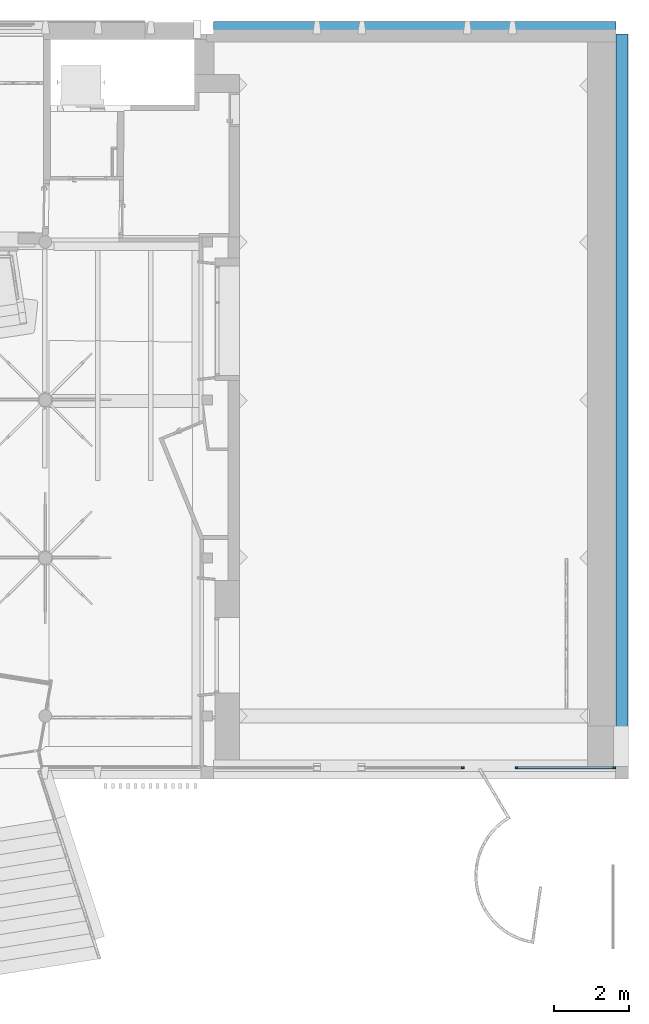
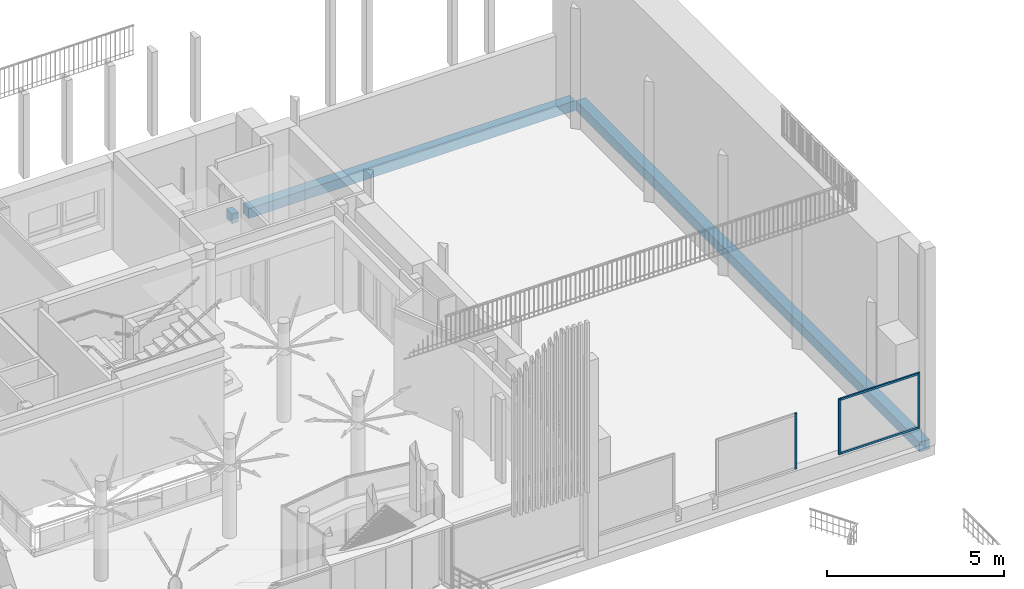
# One storey, part 10 of 65: 5 members, 2 beams, 2 elements without a shape of their own.
"""IFC4 building model written with IfcOpenShell, lengths in metres."""

from ifc_helpers import new_model, entity, si_unit, converted_unit, derived_unit, direction, frame, origin, place, context, subcontext, project, spatial, indexed_curve, outline, extrude, source, transform, mapped, material, type_object, type_shapes, element, aggregate, save


model = new_model("IFC4")

# Units and contexts
model_context = context("Model", 3, precision=1e-05, world=origin(), true_north=direction((6.12303176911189e-17, 1.0)))
body_context = subcontext(model_context, "Body", "Model", "MODEL_VIEW")
ifc_project = project(units=[si_unit("LENGTHUNIT", "METRE"), si_unit("AREAUNIT", "SQUARE_METRE"), si_unit("VOLUMEUNIT", "CUBIC_METRE"), converted_unit("PLANEANGLEUNIT", "DEGREE", entity("IfcRatioMeasure", 0.0174532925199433), si_unit("PLANEANGLEUNIT", "RADIAN"), dimensions=[0, 0, 0, 0, 0, 0, 0]), si_unit("MASSUNIT", "GRAM", prefix="KILO"), derived_unit("MASSDENSITYUNIT", [(si_unit("MASSUNIT", "GRAM", prefix="KILO"), 1), (si_unit("LENGTHUNIT", "METRE"), -3)]), derived_unit("MOMENTOFINERTIAUNIT", [(si_unit("LENGTHUNIT", "METRE"), 4)]), si_unit("TIMEUNIT", "SECOND"), si_unit("FREQUENCYUNIT", "HERTZ"), si_unit("THERMODYNAMICTEMPERATUREUNIT", "DEGREE_CELSIUS"), derived_unit("THERMALTRANSMITTANCEUNIT", [(si_unit("MASSUNIT", "GRAM", prefix="KILO"), 1), (si_unit("THERMODYNAMICTEMPERATUREUNIT", "KELVIN"), -1), (si_unit("TIMEUNIT", "SECOND"), -3)]), derived_unit("VOLUMETRICFLOWRATEUNIT", [(si_unit("LENGTHUNIT", "METRE"), 3), (si_unit("TIMEUNIT", "SECOND"), -1)]), si_unit("ELECTRICCURRENTUNIT", "AMPERE"), si_unit("ELECTRICVOLTAGEUNIT", "VOLT"), si_unit("POWERUNIT", "WATT"), si_unit("FORCEUNIT", "NEWTON", prefix="KILO"), si_unit("ILLUMINANCEUNIT", "LUX"), si_unit("LUMINOUSFLUXUNIT", "LUMEN"), si_unit("LUMINOUSINTENSITYUNIT", "CANDELA"), derived_unit("USERDEFINED", [(si_unit("MASSUNIT", "GRAM", prefix="KILO"), -1), (si_unit("LENGTHUNIT", "METRE"), -2), (si_unit("TIMEUNIT", "SECOND"), 3), (si_unit("LUMINOUSFLUXUNIT", "LUMEN"), 1)]), derived_unit("LINEARVELOCITYUNIT", [(si_unit("LENGTHUNIT", "METRE"), 1), (si_unit("TIMEUNIT", "SECOND"), -1)]), si_unit("PRESSUREUNIT", "PASCAL"), derived_unit("USERDEFINED", [(si_unit("LENGTHUNIT", "METRE"), -2), (si_unit("MASSUNIT", "GRAM", prefix="KILO"), 1), (si_unit("TIMEUNIT", "SECOND"), -2)]), derived_unit("LINEARFORCEUNIT", [(si_unit("MASSUNIT", "GRAM", prefix="KILO"), 1), (si_unit("LENGTHUNIT", "METRE"), 1), (si_unit("TIMEUNIT", "SECOND"), -2), (si_unit("LENGTHUNIT", "METRE"), -1)]), derived_unit("PLANARFORCEUNIT", [(si_unit("MASSUNIT", "GRAM", prefix="KILO"), 1), (si_unit("LENGTHUNIT", "METRE"), 1), (si_unit("TIMEUNIT", "SECOND"), -2), (si_unit("LENGTHUNIT", "METRE"), -2)])], contexts=[model_context])

# Site, building, storey
site_placement = place(None, origin())
site = spatial("IfcSite", under=ifc_project, at=site_placement, Name="Default", CompositionType="ELEMENT")
building_placement = place(site_placement, origin())
building = spatial("IfcBuilding", under=site, at=building_placement, Name="HOTEL CONSULAIRE BOULOGNE SUR MER", CompositionType="ELEMENT")
storey_placement = place(building_placement, origin())
storey = spatial("IfcBuildingStorey", under=building, at=storey_placement, Name="Niveau 0", CompositionType="ELEMENT", Elevation=1.31981936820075e-13)

# Curtain wall, member
curtain_wall_type = type_object("IfcCurtainWallType", Name="Mur-rideau:Simple panneau", PredefinedType="NOTDEFINED")
curtain_wall_1_placement = place(storey_placement, origin())
curtain_wall_1 = element("IfcCurtainWall", 1, at=curtain_wall_1_placement, inside=storey, type_object=curtain_wall_type, Name="Mur-rideau:Simple panneau", ObjectType="Mur-rideau:Simple panneau", PredefinedType="NOTDEFINED")
ifc_material_1 = material(Name="alu finifion bleu")
member_type_1 = type_object("IfcMemberType", Name="Meneau rectangulaire:50 x 35 Alu bleu", PredefinedType="MULLION", material=ifc_material_1)
shared_shape_1 = source(origin(), body_context, "Body", "SweptSolid", [
    extrude(outline(indexed_curve([(-0.025, -0.035), (0.025, -0.035), (0.025, 0.035), (-0.025, 0.035), (-0.025, -0.035)], self_intersect=False)), frame((-0.035, -0.025, -1.92944921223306), z_axis=(0.0, 0.0, 1.0), x_axis=(0.0, -1.0, 0.0)), (0.0, 0.0, 1.0), 1.92944921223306),
])
type_shapes(member_type_1, [shared_shape_1])
member_1_placement = place(storey_placement, frame((19.6654235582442, -29.6140671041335, 2.23404066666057), z_axis=(0.0, 0.0, 1.0), x_axis=(-1.0, 0.0, 0.0)))
member_1 = element("IfcMember", 2, at=member_1_placement, type_object=member_type_1, material=ifc_material_1, Name="Meneau rectangulaire:50 x 35 Alu bleu", ObjectType="Meneau rectangulaire:50 x 35 Alu bleu", PredefinedType="MULLION", context=body_context, shape_type="MappedRepresentation", body=[
    mapped(shared_shape_1, transform((0.0, 0.0, 0.0), scale=1.0)),
])

curtain_wall_2_placement = place(storey_placement, origin())
curtain_wall_2 = element("IfcCurtainWall", 3, at=curtain_wall_2_placement, inside=storey, type_object=curtain_wall_type, Name="Mur-rideau:Simple panneau", ObjectType="Mur-rideau:Simple panneau", PredefinedType="NOTDEFINED")
member_type_2 = type_object("IfcMemberType", Name="Meneau rectangulaire:50 x 35 Alu bleu", PredefinedType="MULLION", material=ifc_material_1)
shared_shape_2 = source(origin(), body_context, "Body", "SweptSolid", [
    extrude(outline(indexed_curve([(-0.025, -0.035), (0.025, -0.035), (0.025, 0.035), (-0.025, 0.035), (-0.025, -0.035)], self_intersect=False)), frame((-0.035, -0.025, -1.92944921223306), z_axis=(0.0, 0.0, 1.0), x_axis=(0.0, -1.0, 0.0)), (0.0, 0.0, 1.0), 1.92944921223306),
])
type_shapes(member_type_2, [shared_shape_2])
member_2_placement = place(storey_placement, frame((18.3034778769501, -29.6140671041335, 0.304591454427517), z_axis=(0.0, 0.0, -1.0), x_axis=(1.0, 0.0, 0.0)))
member_2 = element("IfcMember", 4, at=member_2_placement, type_object=member_type_2, material=ifc_material_1, Name="Meneau rectangulaire:50 x 35 Alu bleu", ObjectType="Meneau rectangulaire:50 x 35 Alu bleu", PredefinedType="MULLION", context=body_context, shape_type="MappedRepresentation", body=[
    mapped(shared_shape_2, transform((0.0, 0.0, 0.0), scale=1.0)),
])
aggregate(curtain_wall_2, [member_2])

# Member
member_3_placement = place(storey_placement, frame((22.3286382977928, -29.6140671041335, 0.304591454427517), z_axis=(0.0, 0.0, -1.0), x_axis=(1.0, 0.0, 0.0)))
member_3 = element("IfcMember", 5, at=member_3_placement, type_object=member_type_2, material=ifc_material_1, Name="Meneau rectangulaire:50 x 35 Alu bleu", ObjectType="Meneau rectangulaire:50 x 35 Alu bleu", PredefinedType="MULLION", context=body_context, shape_type="MappedRepresentation", body=[
    mapped(shared_shape_2, transform((0.0, 0.0, 0.0), scale=1.0)),
])

member_type_3 = type_object("IfcMemberType", Name="Meneau rectangulaire:50 x 35 Alu bleu", PredefinedType="MULLION", material=ifc_material_1)
shared_shape_3 = source(origin(), body_context, "Body", "SweptSolid", [
    extrude(outline(indexed_curve([(-0.025, -0.035), (0.025, -0.035), (0.025, 0.035), (-0.025, 0.035), (-0.025, -0.035)], self_intersect=False)), frame((-0.035, -0.025, -2.52321473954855), z_axis=(0.0, 0.0, 1.0), x_axis=(0.0, -1.0, 0.0)), (0.0, 0.0, 1.0), 2.52321473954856),
])
type_shapes(member_type_3, [shared_shape_3])
member_4_placement = place(storey_placement, frame((22.2586382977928, -29.6140671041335, 2.23404066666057), z_axis=(1.0, 0.0, 0.0), x_axis=(0.0, 0.0, 1.0)))
member_4 = element("IfcMember", 6, at=member_4_placement, type_object=member_type_3, material=ifc_material_1, Name="Meneau rectangulaire:50 x 35 Alu bleu", ObjectType="Meneau rectangulaire:50 x 35 Alu bleu", PredefinedType="MULLION", context=body_context, shape_type="MappedRepresentation", body=[
    mapped(shared_shape_3, transform((0.0, 0.0, 0.0), scale=1.0)),
])

member_type_4 = type_object("IfcMemberType", Name="Meneau rectangulaire:50 x 35 Alu bleu", PredefinedType="MULLION", material=ifc_material_1)
shared_shape_4 = source(origin(), body_context, "Body", "SweptSolid", [
    extrude(outline(indexed_curve([(-0.025, -0.035), (0.025, -0.035), (0.025, 0.035), (-0.025, 0.035), (-0.025, -0.035)], self_intersect=False)), frame((-0.035, -0.025, -2.52321473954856), z_axis=(0.0, 0.0, 1.0), x_axis=(0.0, -1.0, 0.0)), (0.0, 0.0, 1.0), 2.52321473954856),
])
type_shapes(member_type_4, [shared_shape_4])
member_5_placement = place(storey_placement, frame((19.7354235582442, -29.6140671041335, 0.304591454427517), z_axis=(-1.0, 0.0, 0.0), x_axis=(0.0, 0.0, -1.0)))
member_5 = element("IfcMember", 7, at=member_5_placement, type_object=member_type_4, material=ifc_material_1, Name="Meneau rectangulaire:50 x 35 Alu bleu", ObjectType="Meneau rectangulaire:50 x 35 Alu bleu", PredefinedType="MULLION", context=body_context, shape_type="MappedRepresentation", body=[
    mapped(shared_shape_4, transform((0.0, 0.0, 0.0), scale=1.0)),
])

aggregate(curtain_wall_1, [member_1, member_4, member_3, member_5])

# Beams
ifc_material_2 = material(Name="Béton - Béton coulé sur place", Category="Béton")
beam_type_1 = type_object("IfcBeamType", Name="Poutre rectangulaire - Béton:320x340", PredefinedType="BEAM", material=ifc_material_2)
shared_shape_5 = source(origin(), body_context, "Body", "SweptSolid", [
    extrude(outline(indexed_curve([(-0.160000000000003, -0.17), (0.159999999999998, -0.17), (0.159999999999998, 0.17), (-0.160000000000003, 0.17), (-0.160000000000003, -0.17)], self_intersect=False)), frame((22.4986382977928, -29.5640671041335, -0.389999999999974), z_axis=(0.0, 1.0, 0.0), x_axis=(-1.0, 0.0, 0.0)), (0.0, 0.0, 1.0), 19.4794347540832),
])
type_shapes(beam_type_1, [shared_shape_5])
beam_1_placement = place(storey_placement, origin())
element("IfcBeam", 8, at=beam_1_placement, inside=storey, type_object=beam_type_1, material=ifc_material_2, Name="Poutre rectangulaire - Béton:320x340", ObjectType="Poutre rectangulaire - Béton:320x340", PredefinedType="BEAM", context=body_context, shape_type="MappedRepresentation", body=[
    mapped(shared_shape_5, transform((0.0, 0.0, 0.0), scale=1.0)),
])
beam_type_2 = type_object("IfcBeamType", Name="Poutre rectangulaire - Béton:320x340", PredefinedType="BEAM", material=ifc_material_2)
shared_shape_6 = source(origin(), body_context, "Body", "SweptSolid", [
    extrude(outline(indexed_curve([(-0.17, -0.16), (0.17, -0.16), (0.17, 0.16), (-0.17, 0.159999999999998), (-0.17, -0.16)], self_intersect=False)), frame((11.1084859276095, -9.91463235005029, -0.389999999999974), z_axis=(1.0, 0.0, 0.0), x_axis=(0.0, 0.0, -1.0)), (0.0, 0.0, 1.0), 0.198152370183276),
    extrude(outline(indexed_curve([(-0.170000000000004, -0.159999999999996), (0.169999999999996, -0.159999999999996), (0.170000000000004, 0.160000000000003), (-0.169999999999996, 0.160000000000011), (-0.170000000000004, -0.159999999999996)], self_intersect=False)), frame((11.6466382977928, -9.9146323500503, -0.389999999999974), z_axis=(1.0, 0.0, 0.0), x_axis=(0.0, 0.0, -1.0)), (0.0, 0.0, 1.0), 10.6903810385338),
])
type_shapes(beam_type_2, [shared_shape_6])
beam_2_placement = place(storey_placement, origin())
element("IfcBeam", 9, at=beam_2_placement, inside=storey, type_object=beam_type_2, material=ifc_material_2, Name="Poutre rectangulaire - Béton:320x340", ObjectType="Poutre rectangulaire - Béton:320x340", PredefinedType="BEAM", context=body_context, shape_type="MappedRepresentation", body=[
    mapped(shared_shape_6, transform((0.0, 0.0, 0.0), scale=1.0)),
])

save(model, "model.ifc")
